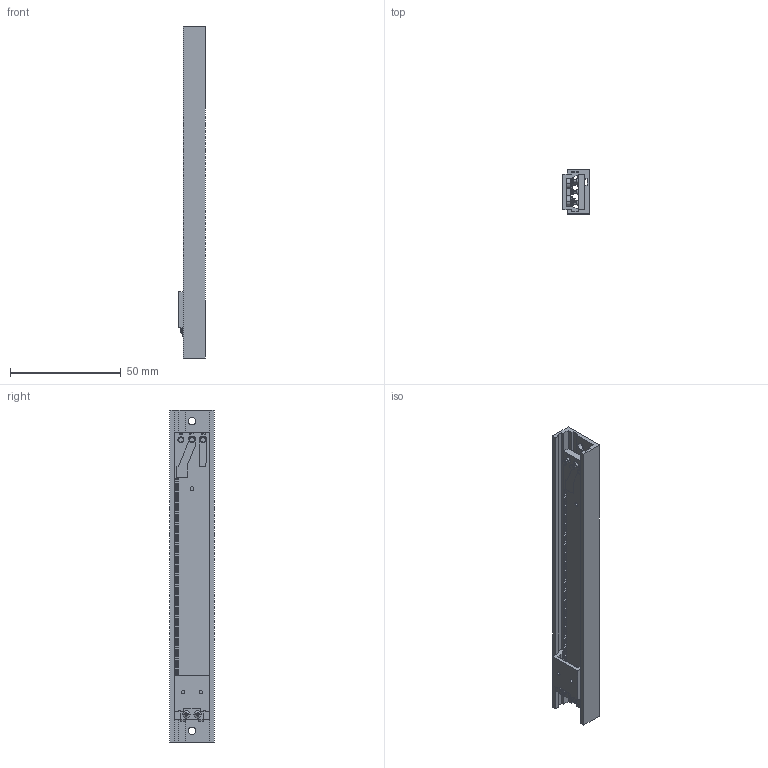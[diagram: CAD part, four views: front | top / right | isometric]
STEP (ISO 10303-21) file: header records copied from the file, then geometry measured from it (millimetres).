
FILE_DESCRIPTION (( 'STEP AP214' ), '1' );
FILE_NAME ('CFL_100_0.STEP', '2008-11-08T12:45:38', ( 'Schell' ), ( '' ), 'SwSTEP 2.0', 'SolidWorks 2005204', '' );
FILE_SCHEMA (( 'AUTOMOTIVE_DESIGN' ));
Length unit declared in the file: millimetre
Products named in the file (9): Leitplatsik-Band; DIN EN 7047_M1,6x3_ISO 7047 - M2 x 5 - Z --- 5N; CFL_Al-Schiene; Geber_li; CFL_Isolierkörper; DIN EN 7047_M2x5_ISO 7047 - M2 x 5 - Z --- 5N; Geber; CFL_100_0; Lötstifte
Assembly tree (12 placements, depth 2):
  CFL_100_0
    Lötstifte  x3
    Geber
    DIN EN 7047_M2x5_ISO 7047 - M2 x 5 - Z --- 5N  x2
    DIN EN 7047_M1,6x3_ISO 7047 - M2 x 5 - Z --- 5N  x2
    Leitplatsik-Band
    CFL_Al-Schiene
    CFL_Isolierkörper
    Geber_li
Bounding box: 12 x 20 x 150 mm (x, y, z)
Volume: 16264.9 mm3; surface area: 19436.3 mm2
Topology: 12 solids, 12 shells, 879 faces, 2165 edges, 1407 vertices
Faces by surface type: plane 694, cylinder 95, cone 50, bspline 20, sphere 12, torus 8
Entity records: 26357 total; most frequent: CARTESIAN_POINT 5888, ORIENTED_EDGE 3886, DIRECTION 3691, EDGE_CURVE 1943, LINE 1651, VECTOR 1651, VERTEX_POINT 1281, AXIS2_PLACEMENT_3D 1020
